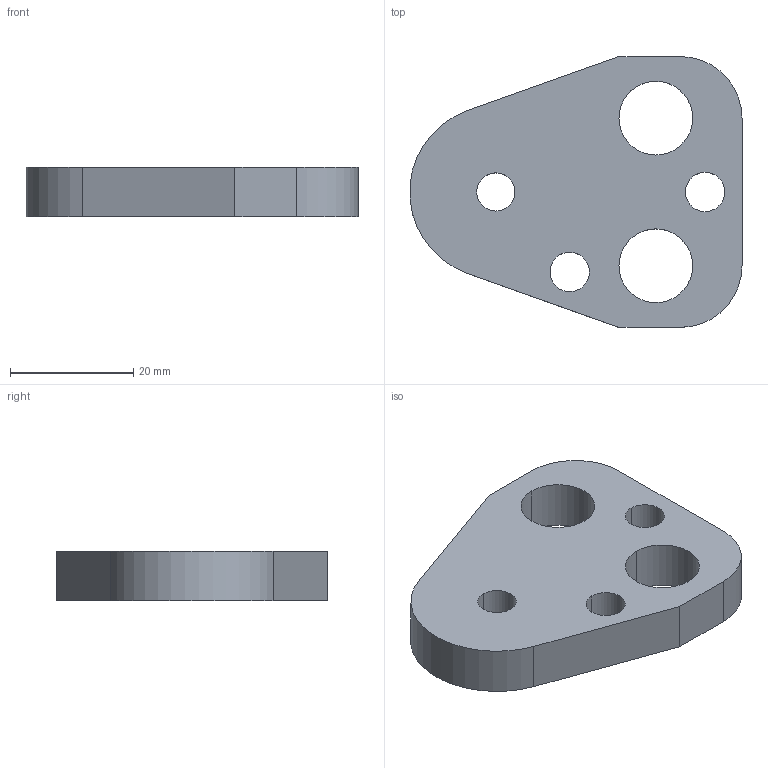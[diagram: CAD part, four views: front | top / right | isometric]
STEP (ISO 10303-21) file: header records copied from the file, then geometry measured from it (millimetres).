
FILE_DESCRIPTION(/* description */ (''),/* implementation_level */ '2;1');
FILE_NAME(/* name */ '3d_bpc16-8_03435_r00.stp',/* time_stamp */ '2011-01-10T14:17:10+09:00',/* author */ ('MISUMI'),/* organization */ (''),/* preprocessor_version */ 'ST-DEVELOPER v11',/* originating_system */ 'UGS - NX 5.0',/* authorisation */ '');
FILE_SCHEMA (('CONFIG_CONTROL_DESIGN'));
Length unit declared in the file: millimetre
Products named in the file (1): 3d_bpc16-8_03435_r00
Bounding box: 53.95 x 44 x 8 mm (x, y, z)
Volume: 12514.2 mm3; surface area: 5507.4 mm2
Topology: 1 solids, 1 shells, 20 faces, 54 edges, 36 vertices
Faces by surface type: cylinder 13, plane 7
Entity records: 750 total; most frequent: DIRECTION 122, CARTESIAN_POINT 111, ORIENTED_EDGE 108, EDGE_CURVE 54, AXIS2_PLACEMENT_3D 47, VERTEX_POINT 36, EDGE_LOOP 30, LINE 28
